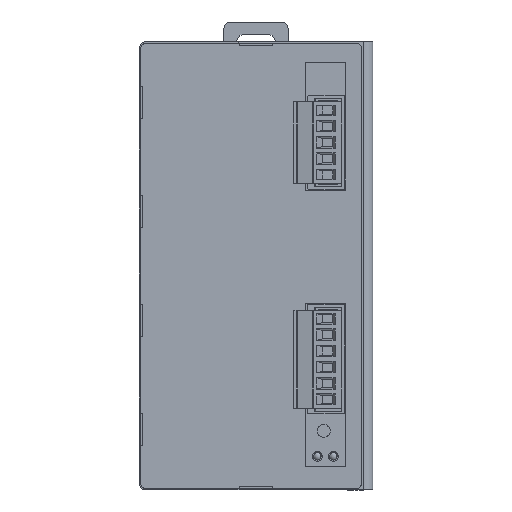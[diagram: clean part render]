
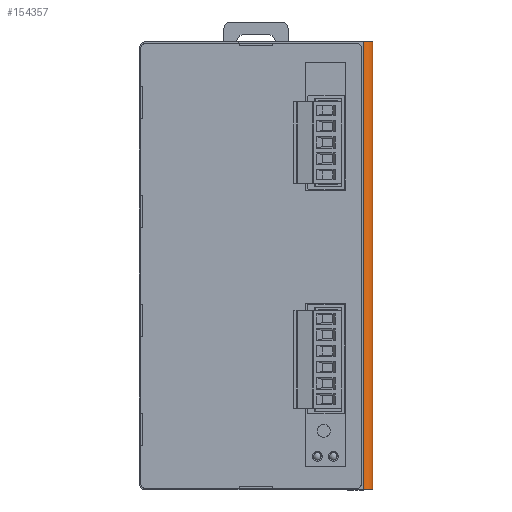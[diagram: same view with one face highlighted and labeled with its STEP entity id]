
A CAD part, left-side view. The second image highlights one B-rep face of the part: STEP entity #154357.
In plain terms, the highlighted cylindrical face has radius 3 mm (diameter 6 mm), a partial arc.
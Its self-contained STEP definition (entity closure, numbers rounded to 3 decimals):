
#7639 = CARTESIAN_POINT ( 'NONE',  ( -59.5, -33.5, 70. ) ) ;
#8152 = CIRCLE ( 'NONE', #85445, 3. ) ;
#9968 = DIRECTION ( 'NONE',  ( 0., 0., -1. ) ) ;
#12581 = ORIENTED_EDGE ( 'NONE', *, *, #147630, .F. ) ;
#14833 = AXIS2_PLACEMENT_3D ( 'NONE', #108579, #121251, #29157 ) ;
#20696 = DIRECTION ( 'NONE',  ( 0., -1., 0. ) ) ;
#27078 = FACE_OUTER_BOUND ( 'NONE', #112466, .T. ) ;
#29157 = DIRECTION ( 'NONE',  ( 0., -1., 0. ) ) ;
#35985 = CARTESIAN_POINT ( 'NONE',  ( -59.5, -36.5, -70. ) ) ;
#42957 = VECTOR ( 'NONE', #152454, 1000. ) ;
#45517 = CYLINDRICAL_SURFACE ( 'NONE', #14833, 3. ) ;
#47341 = DIRECTION ( 'NONE',  ( 0., 0., -1. ) ) ;
#63134 = AXIS2_PLACEMENT_3D ( 'NONE', #126912, #47341, #140409 ) ;
#68724 = CARTESIAN_POINT ( 'NONE',  ( -59.5, -36.5, 70. ) ) ;
#84885 = LINE ( 'NONE', #169196, #155855 ) ;
#85445 = AXIS2_PLACEMENT_3D ( 'NONE', #7639, #99881, #20696 ) ;
#88100 = ORIENTED_EDGE ( 'NONE', *, *, #148100, .T. ) ;
#99881 = DIRECTION ( 'NONE',  ( 0., 0., 1. ) ) ;
#108579 = CARTESIAN_POINT ( 'NONE',  ( -59.5, -33.5, -70. ) ) ;
#112466 = EDGE_LOOP ( 'NONE', ( #153696, #88100, #12581, #163009 ) ) ;
#118108 = CIRCLE ( 'NONE', #63134, 3. ) ;
#119746 = CARTESIAN_POINT ( 'NONE',  ( -62.5, -33.5, 70. ) ) ;
#121251 = DIRECTION ( 'NONE',  ( 0., 0., 1. ) ) ;
#123394 = VERTEX_POINT ( 'NONE', #119746 ) ;
#126912 = CARTESIAN_POINT ( 'NONE',  ( -59.5, -33.5, -70. ) ) ;
#131843 = VERTEX_POINT ( 'NONE', #35985 ) ;
#139012 = CARTESIAN_POINT ( 'NONE',  ( -62.5, -33.5, -70. ) ) ;
#140409 = DIRECTION ( 'NONE',  ( 0., -1., 0. ) ) ;
#146634 = EDGE_CURVE ( 'NONE', #153359, #131843, #84885, .T. ) ;
#147630 = EDGE_CURVE ( 'NONE', #131843, #162266, #118108, .T. ) ;
#148100 = EDGE_CURVE ( 'NONE', #123394, #162266, #149082, .T. ) ;
#148119 = EDGE_CURVE ( 'NONE', #123394, #153359, #8152, .T. ) ;
#149082 = LINE ( 'NONE', #139012, #42957 ) ;
#152454 = DIRECTION ( 'NONE',  ( 0., 0., -1. ) ) ;
#153359 = VERTEX_POINT ( 'NONE', #68724 ) ;
#153696 = ORIENTED_EDGE ( 'NONE', *, *, #148119, .F. ) ;
#154357 = ADVANCED_FACE ( 'NONE', ( #27078 ), #45517, .T. ) ;
#155855 = VECTOR ( 'NONE', #9968, 1000. ) ;
#159540 = CARTESIAN_POINT ( 'NONE',  ( -62.5, -33.5, -70. ) ) ;
#162266 = VERTEX_POINT ( 'NONE', #159540 ) ;
#163009 = ORIENTED_EDGE ( 'NONE', *, *, #146634, .F. ) ;
#169196 = CARTESIAN_POINT ( 'NONE',  ( -59.5, -36.5, 2.4 ) ) ;
